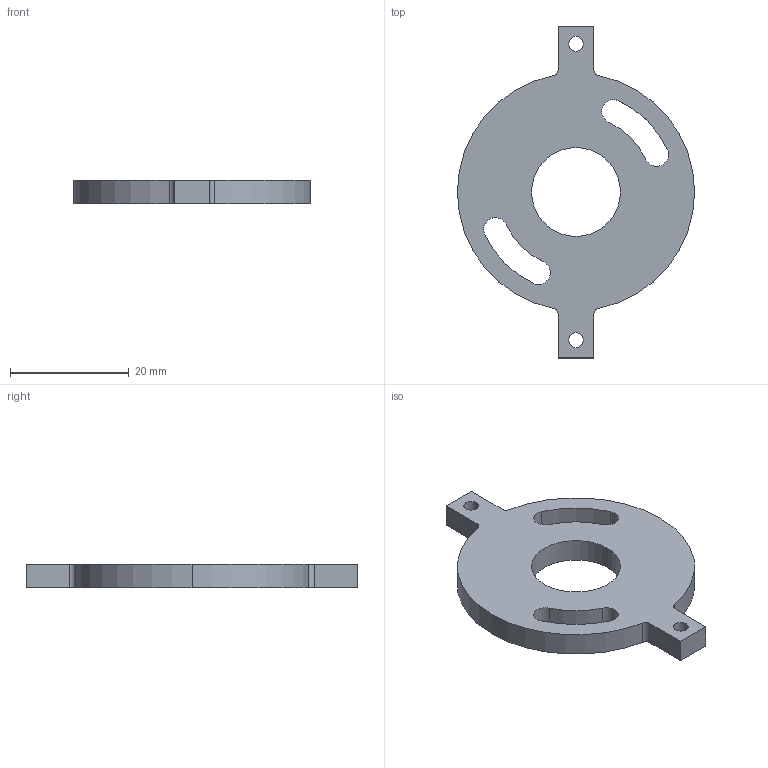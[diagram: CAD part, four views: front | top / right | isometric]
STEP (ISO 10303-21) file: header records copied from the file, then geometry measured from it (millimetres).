
FILE_DESCRIPTION (( 'STEP AP214' ), '1' );
FILE_NAME ('2026_5_1_タブ付フローディスク.STEP', '2026-05-01T07:59:19', ( '' ), ( '' ), 'SwSTEP 2.0', 'SolidWorks 2025', '' );
FILE_SCHEMA (( 'AUTOMOTIVE_DESIGN' ));
Length unit declared in the file: millimetre
Products named in the file (1): 2026_5_1_タブ付フローディスク
Bounding box: 40 x 56 x 4 mm (x, y, z)
Volume: 4234.6 mm3; surface area: 3266.3 mm2
Topology: 1 solids, 1 shells, 31 faces, 87 edges, 58 vertices
Faces by surface type: cylinder 23, plane 8
Entity records: 1246 total; most frequent: DIRECTION 197, CARTESIAN_POINT 177, ORIENTED_EDGE 174, EDGE_CURVE 87, AXIS2_PLACEMENT_3D 78, VERTEX_POINT 58, CIRCLE 46, LINE 41
